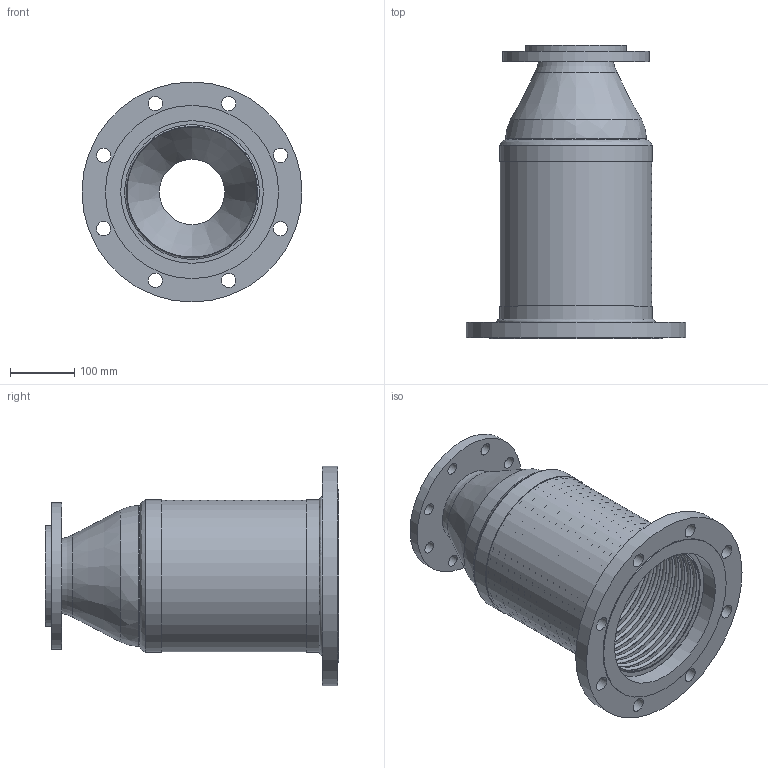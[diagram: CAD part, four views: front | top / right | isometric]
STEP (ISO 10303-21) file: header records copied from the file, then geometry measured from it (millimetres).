
FILE_DESCRIPTION((''),'2;1');
FILE_NAME('C:\2012_Work\Designs\RFFL\RFFL-8x4in.stp','2013-08-20T10:51:36',('KShiels'),(''),'Autodesk Inventor 2012','Autodesk Inventor 2012','');
FILE_SCHEMA(('AUTOMOTIVE_DESIGN { 1 0 10303 214 1 1 1 1 }'));
Length unit declared in the file: inch
Products named in the file (9): RFFL-8x4in; RFFL-8x4in_Welds; A-31003_8in_RFFL-BRAID; A-31003_8in_RFFL-BELLOWS; A-31003_8in_RFFL-BRAID-COLLAR; A-30988_8in-FIXED-FLANGE; A-30989_4in-FLOATING-FLANGE; A-30991_8x4in-REDUCER; A-30990_4in-WASHER
Assembly tree (9 placements, depth 2):
  RFFL-8x4in
    RFFL-8x4in_Welds
    A-31003_8in_RFFL-BRAID
    A-31003_8in_RFFL-BELLOWS
    A-31003_8in_RFFL-BRAID-COLLAR  x2
    A-30988_8in-FIXED-FLANGE
    A-30989_4in-FLOATING-FLANGE
    A-30991_8x4in-REDUCER
    A-30990_4in-WASHER
Bounding box: 342.9 x 457.39 x 342.9 mm (x, y, z)
Volume: 2771437.3 mm3; surface area: 2068410.2 mm2
Topology: 11 solids, 11 shells, 236 faces, 411 edges, 279 vertices
Faces by surface type: plane 104, torus 87, cylinder 36, cone 5, bspline 4
Full cylindrical faces by diameter (mm): 19.05 x8, 22.225 x8, 101.6 x1, 113.64 x1, 117.475 x3, 157.163 x1, 203.2 x1, 219.558 x2, 222.25 x1, 228.6 x1, 234.95 x1, 235.966 x3, 238.347 x3, 269.875 x1, 342.9 x1
Entity records: 6122 total; most frequent: CARTESIAN_POINT 1659, DIRECTION 976, ORIENTED_EDGE 514, EDGE_LOOP 493, AXIS2_PLACEMENT_3D 488, FACE_BOUND 261, EDGE_CURVE 257, VERTEX_POINT 254
